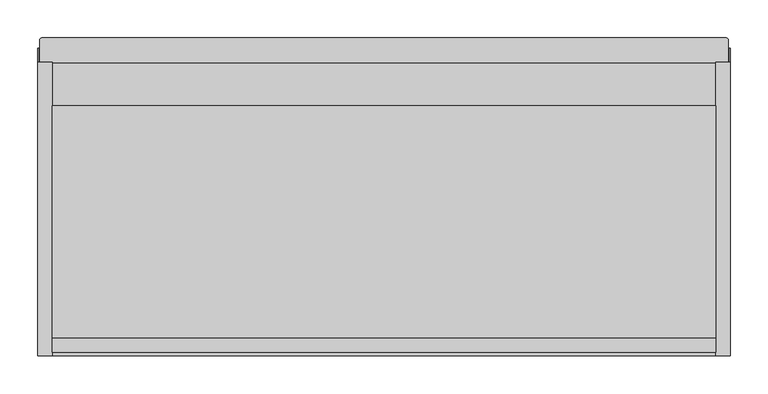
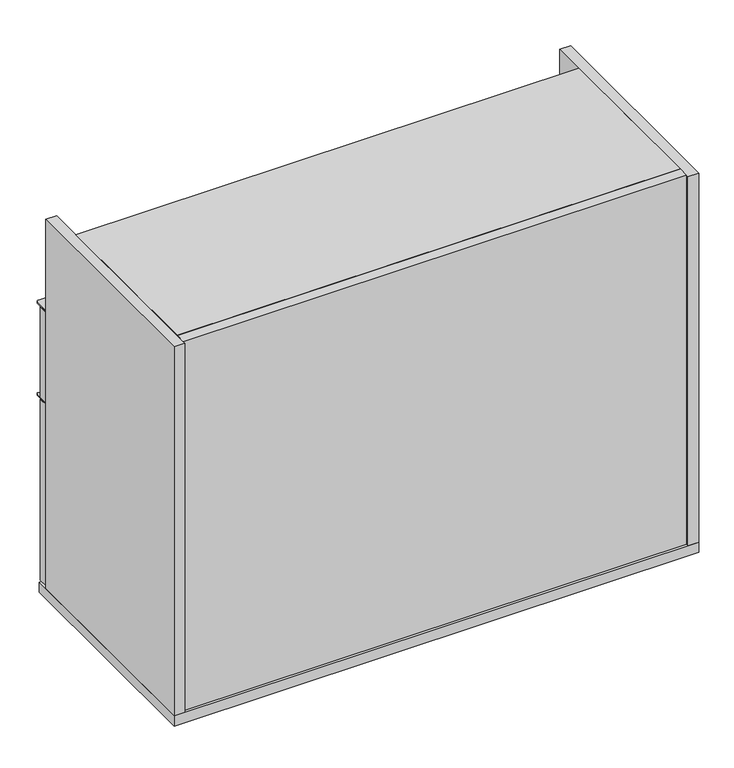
"""IFC4 building model written with IfcOpenShell, lengths in millimetres: furniture geometry, Haworth_BeHold_Modular_AttachedLateral : O/B/F - Inset Back - 36w."""

from ifc_helpers import new_model, si_unit, point, frame, frame_2d, origin, origin_with_axes, place, context, project, spatial, polyline, circle_curve, ellipse_curve, trimmed, segment, composite_curve, outline, extrude, source, transform, mapped, element, save
from ifc_brep_helpers import plane_surface, revolved_surface, advanced_brep


def furniture_131be3bd(model_context):
    return source(origin(), model_context, "Body", "SolidModel", [
        extrude(outline(composite_curve([segment(trimmed(circle_curve(frame_2d((-608.4913367, 505.6071814)), 3.1865686), [point((-611.6779053, 505.6071814))], [point((-608.4913367, 508.79375))], False, "CARTESIAN"), True, "CONTINUOUS"), segment(polyline([(-608.4913367, 508.79375), (294.7811072, 508.79375)]), True, "CONTINUOUS"), segment(trimmed(circle_curve(frame_2d((294.7811072, 505.6152625)), 3.1784875), [point((294.7811072, 508.79375))], [point((297.9595947, 505.6152625))], False, "CARTESIAN"), True, "CONTINUOUS"), segment(polyline([(297.9595947, 505.6152625), (297.9595947, 476.25), (-611.6779053, 476.25), (-611.6779053, 505.6071814)]), True, "CONTINUOUS")], self_intersect=False)), frame((0.0, 0.0, 538.1625), z_axis=(0.0, 0.0, 1.0), x_axis=(1.0, 0.0, 0.0)), (0.0, 0.0, 1.0), 2.38125),
        advanced_brep(
        [(255.8892944, 498.4742249, 496.09375), (263.8283447, 498.4742249, 496.09375), (271.767395, 498.4742249, 496.09375), (252.7150695, 495.3, 496.09375), (274.9416198, 495.3, 496.09375), (263.8283447, 495.3, 496.09375)],
        [
            (0, 1),
            (1, 2),
            (2, 0, circle_curve(frame((263.8283447, 498.4742249, 496.09375), z_axis=(0.0, 1.0, 0.0), x_axis=(1.0, 0.0, 0.0)), 7.9390503)),
            (0, 2, circle_curve(frame((263.8283447, 498.4742249, 496.09375), z_axis=(0.0, 1.0, 0.0), x_axis=(1.0, 0.0, 0.0)), 7.9390503)),
            (3, 0, circle_curve(frame((255.8892944, 495.3, 496.09375), z_axis=(0.0, 0.0, -1.0), x_axis=(1.0, 0.0, 0.0)), 3.1742249)),
            (2, 4, circle_curve(frame((271.767395, 495.3, 496.09375), z_axis=(0.0, 0.0, -1.0), x_axis=(-1.0, 0.0, 0.0)), 3.1742249)),
            (4, 3, circle_curve(frame((263.8283447, 495.3, 496.09375), z_axis=(0.0, 1.0, 0.0), x_axis=(1.0, 0.0, 0.0)), 11.1132751)),
            (3, 4, circle_curve(frame((263.8283447, 495.3, 496.09375), z_axis=(0.0, 1.0, 0.0), x_axis=(1.0, 0.0, 0.0)), 11.1132751)),
            (5, 3),
            (4, 5),
        ],
        [
            plane_surface(frame((263.8283447, 498.4742249, 496.09375), z_axis=(0.0, 1.0, 0.0), x_axis=(1.0, 0.0, 0.0))),
            revolved_surface(trimmed(ellipse_curve(frame((271.767395, 495.3, 496.09375), z_axis=(0.0, 0.0, -1.0), x_axis=(-1.0, 0.0, 0.0)), 3.1742249, 3.1742249), [point((271.767395, 498.4742249, 496.09375))], [point((274.9416198, 495.3, 496.09375))], True, "CARTESIAN"), (263.8283447, 481.3109205, 496.09375), (0.0, -1.0, 0.0)),
            plane_surface(frame((263.8283447, 495.3, 496.09375), z_axis=(0.0, -1.0, 0.0), x_axis=(1.0, 0.0, 0.0))),
        ],
        [
            (0, [[1, 2, 3]]),
            (0, [[-2, -1, 4]]),
            (1, [[5, -3, 6, 7]]),
            (1, [[-6, -4, -5, 8]]),
            (2, [[9, -7, 10]]),
            (2, [[-10, -8, -9]]),
        ],
    ),
        extrude(outline(polyline([(-612.4716553, 476.25), (-612.4716553, 495.3), (298.7533447, 495.3), (298.7533447, 476.25), (-612.4716553, 476.25)])), frame((0.0, 0.0, 371.475), z_axis=(0.0, 0.0, 1.0), x_axis=(1.0, 0.0, 0.0)), (0.0, 0.0, 1.0), 166.6875),
        extrude(outline(composite_curve([segment(trimmed(circle_curve(frame_2d((-608.4913367, 505.6071814)), 3.1865686), [point((-611.6779053, 505.6071814))], [point((-608.4913367, 508.79375))], False, "CARTESIAN"), True, "CONTINUOUS"), segment(polyline([(-608.4913367, 508.79375), (294.7811072, 508.79375)]), True, "CONTINUOUS"), segment(trimmed(circle_curve(frame_2d((294.7811072, 505.6152625)), 3.1784875), [point((294.7811072, 508.79375))], [point((297.9595947, 505.6152625))], False, "CARTESIAN"), True, "CONTINUOUS"), segment(polyline([(297.9595947, 505.6152625), (297.9595947, 476.25), (-611.6779053, 476.25), (-611.6779053, 505.6071814)]), True, "CONTINUOUS")], self_intersect=False)), frame((0.0, 0.0, 368.3), z_axis=(0.0, 0.0, 1.0), x_axis=(1.0, 0.0, 0.0)), (0.0, 0.0, 1.0), 2.38125),
        extrude(outline(polyline([(-612.4716553, 476.25), (-612.4716553, 495.3), (298.7533447, 495.3), (298.7533447, 476.25), (-612.4716553, 476.25)])), frame((0.0, 0.0, 34.925), z_axis=(0.0, 0.0, 1.0), x_axis=(1.0, 0.0, 0.0)), (0.0, 0.0, 1.0), 333.375),
        extrude(outline(polyline([(281.2908447, 107.95), (-595.0091553, 107.95), (-595.0091553, 476.25), (281.2908447, 476.25), (281.2908447, 107.95)])), frame((0.0, 0.0, 520.7), z_axis=(0.0, 0.0, 1.0), x_axis=(1.0, 0.0, 0.0)), (0.0, 0.0, 1.0), 19.05),
        extrude(outline(polyline([(281.2908447, 112.7125), (-595.0091553, 112.7125), (-595.0091553, 419.1), (281.2908447, 419.1), (281.2908447, 112.7125)])), frame((0.0, 0.0, 692.15), z_axis=(0.0, 0.0, 1.0), x_axis=(1.0, 0.0, 0.0)), (0.0, 0.0, 1.0), 19.05),
        extrude(outline(polyline([(281.2908447, 112.7125), (281.2908447, 93.6625), (-595.0091553, 93.6625), (-595.0091553, 112.7125), (281.2908447, 112.7125)])), frame((0.0, 0.0, 31.75), z_axis=(0.0, 0.0, 1.0), x_axis=(1.0, 0.0, 0.0)), (0.0, 0.0, 1.0), 679.45),
        extrude(outline(polyline([(300.3408447, 88.9), (281.2908447, 88.9), (281.2908447, 476.25), (300.3408447, 476.25), (300.3408447, 88.9)])), frame((0.0, 0.0, 31.75), z_axis=(0.0, 0.0, 1.0), x_axis=(1.0, 0.0, 0.0)), (0.0, 0.0, 1.0), 679.45),
        extrude(outline(polyline([(-614.0591553, 476.25), (-595.0091553, 476.25), (-595.0091553, 88.9), (-614.0591553, 88.9), (-614.0591553, 476.25)])), frame((0.0, 0.0, 31.75), z_axis=(0.0, 0.0, 1.0), x_axis=(1.0, 0.0, 0.0)), (0.0, 0.0, 1.0), 679.45),
        extrude(outline(polyline([(300.3408447, 88.9), (-614.0591553, 88.9), (-614.0591553, 495.3), (300.3408447, 495.3), (300.3408447, 88.9)])), frame((0.0, 0.0, 12.7), z_axis=(0.0, 0.0, 1.0), x_axis=(1.0, 0.0, 0.0)), (0.0, 0.0, 1.0), 19.05),
        extrude(outline(composite_curve([segment(trimmed(circle_curve(frame_2d((274.9408447, 114.3)), 6.35), [point((281.2908447, 114.3))], [point((274.9408447, 107.95))], False, "CARTESIAN"), True, "CONTINUOUS"), segment(polyline([(274.9408447, 107.95), (230.4408477, 107.95)]), True, "CONTINUOUS"), segment(trimmed(circle_curve(frame_2d((230.4408477, 114.3)), 6.35), [point((230.4408477, 107.95))], [point((224.0908477, 114.3))], False, "CARTESIAN"), True, "CONTINUOUS"), segment(polyline([(224.0908477, 114.3), (224.0908477, 125.7500763), (263.4907684, 165.1499969), (274.9408447, 165.1499969)]), True, "CONTINUOUS"), segment(trimmed(circle_curve(frame_2d((274.9408447, 158.7999969)), 6.35), [point((274.9408447, 165.1499969))], [point((281.2908447, 158.7999969))], False, "CARTESIAN"), True, "CONTINUOUS"), segment(polyline([(281.2908447, 158.7999969), (281.2908447, 114.3)]), True, "CONTINUOUS")], self_intersect=False)), origin_with_axes(), (0.0, 0.0, 1.0), 12.7),
        extrude(outline(composite_curve([segment(polyline([(281.2908447, 469.9), (281.2908447, 425.4000031)]), True, "CONTINUOUS"), segment(trimmed(circle_curve(frame_2d((274.9408447, 425.4000031)), 6.35), [point((281.2908447, 425.4000031))], [point((274.9408447, 419.0500031))], False, "CARTESIAN"), True, "CONTINUOUS"), segment(polyline([(274.9408447, 419.0500031), (263.4907684, 419.0500031), (224.0908477, 458.4499237), (224.0908477, 469.9)]), True, "CONTINUOUS"), segment(trimmed(circle_curve(frame_2d((230.4408477, 469.9)), 6.35), [point((224.0908477, 469.9))], [point((230.4408477, 476.25))], False, "CARTESIAN"), True, "CONTINUOUS"), segment(polyline([(230.4408477, 476.25), (274.9408447, 476.25)]), True, "CONTINUOUS"), segment(trimmed(circle_curve(frame_2d((274.9408447, 469.9)), 6.35), [point((274.9408447, 476.25))], [point((281.2908447, 469.9))], False, "CARTESIAN"), True, "CONTINUOUS")], self_intersect=False)), origin_with_axes(), (0.0, 0.0, 1.0), 12.7),
        extrude(outline(composite_curve([segment(polyline([(-595.0091553, 114.3), (-595.0091553, 158.7999969)]), True, "CONTINUOUS"), segment(trimmed(circle_curve(frame_2d((-588.6591553, 158.7999969)), 6.35), [point((-595.0091553, 158.7999969))], [point((-588.6591553, 165.1499969))], False, "CARTESIAN"), True, "CONTINUOUS"), segment(polyline([(-588.6591553, 165.1499969), (-577.209079, 165.1499969), (-537.8091584, 125.7500763), (-537.8091584, 114.3)]), True, "CONTINUOUS"), segment(trimmed(circle_curve(frame_2d((-544.1591584, 114.3)), 6.35), [point((-537.8091584, 114.3))], [point((-544.1591584, 107.95))], False, "CARTESIAN"), True, "CONTINUOUS"), segment(polyline([(-544.1591584, 107.95), (-588.6591553, 107.95)]), True, "CONTINUOUS"), segment(trimmed(circle_curve(frame_2d((-588.6591553, 114.3)), 6.35), [point((-588.6591553, 107.95))], [point((-595.0091553, 114.3))], False, "CARTESIAN"), True, "CONTINUOUS")], self_intersect=False)), origin_with_axes(), (0.0, 0.0, 1.0), 12.7),
        extrude(outline(composite_curve([segment(trimmed(circle_curve(frame_2d((-588.6591553, 469.9)), 6.35), [point((-595.0091553, 469.9))], [point((-588.6591553, 476.25))], False, "CARTESIAN"), True, "CONTINUOUS"), segment(polyline([(-588.6591553, 476.25), (-544.1591584, 476.25)]), True, "CONTINUOUS"), segment(trimmed(circle_curve(frame_2d((-544.1591584, 469.9)), 6.35), [point((-544.1591584, 476.25))], [point((-537.8091584, 469.9))], False, "CARTESIAN"), True, "CONTINUOUS"), segment(polyline([(-537.8091584, 469.9), (-537.8091584, 458.4499237), (-577.209079, 419.0500031), (-588.6591553, 419.0500031)]), True, "CONTINUOUS"), segment(trimmed(circle_curve(frame_2d((-588.6591553, 425.4000031)), 6.35), [point((-588.6591553, 419.0500031))], [point((-595.0091553, 425.4000031))], False, "CARTESIAN"), True, "CONTINUOUS"), segment(polyline([(-595.0091553, 425.4000031), (-595.0091553, 469.9)]), True, "CONTINUOUS")], self_intersect=False)), origin_with_axes(), (0.0, 0.0, 1.0), 12.7),
    ])


if __name__ == "__main__":
    model = new_model("IFC4")
    model_context = context("Model", 3, world=origin())
    ifc_project = project(units=[si_unit("LENGTHUNIT", "METRE", prefix="MILLI")], contexts=[model_context])
    site = spatial("IfcSite", under=ifc_project)
    building = spatial("IfcBuilding", under=site)
    placement = place(None, origin())
    furniture_shape = furniture_131be3bd(model_context)
    element("IfcFurniture", 1, ObjectType="Haworth_BeHold_Modular_AttachedLateral : O/B/F - Inset Back - 36w", at=placement, inside=building, context=model_context, shape_type="MappedRepresentation", body=[
        mapped(furniture_shape, transform((0.0, 0.0, 0.0), x_axis=(1.0, 0.0, 0.0), y_axis=(0.0, 1.0, 0.0), z_axis=(0.0, 0.0, 1.0))),
    ])
    save(model, "model.ifc")
